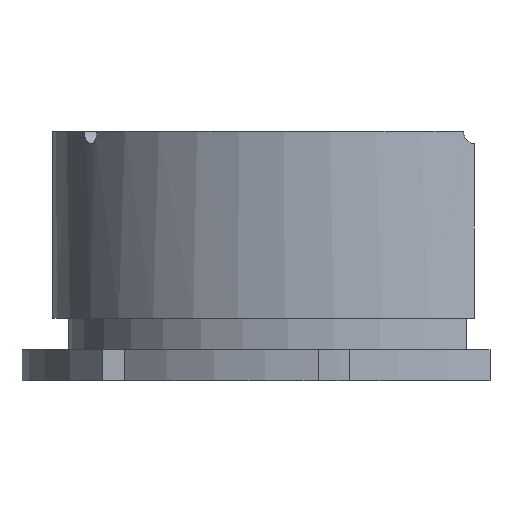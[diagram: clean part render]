
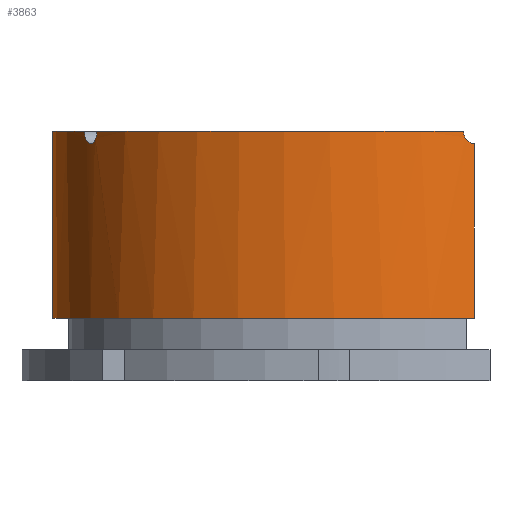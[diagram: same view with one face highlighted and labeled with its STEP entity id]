
A CAD part, front view. The second image highlights one B-rep face of the part: STEP entity #3863.
In plain terms, the highlighted cylindrical face has radius 45 mm (diameter 90 mm), a partial arc.
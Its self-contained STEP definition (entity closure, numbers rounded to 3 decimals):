
#203=B_SPLINE_CURVE_WITH_KNOTS('',3,(#6580,#6581,#6582,#6583,#6584),
 .UNSPECIFIED.,.F.,.F.,(4,1,4),(0.,0.002,
0.003),.UNSPECIFIED.);
#204=B_SPLINE_CURVE_WITH_KNOTS('',3,(#6588,#6589,#6590,#6591,#6592,#6593,
#6594),.UNSPECIFIED.,.F.,.F.,(4,1,1,1,4),(0.,0.002,0.003,
0.005,0.006),.UNSPECIFIED.);
#205=B_SPLINE_CURVE_WITH_KNOTS('',3,(#6598,#6599,#6600,#6601,#6602,#6603,
#6604),.UNSPECIFIED.,.F.,.F.,(4,1,1,1,4),(0.,0.002,0.003,
0.005,0.006),.UNSPECIFIED.);
#406=CIRCLE('',#4046,45.);
#407=CIRCLE('',#4047,45.);
#408=CIRCLE('',#4048,45.);
#409=CIRCLE('',#4049,45.);
#589=ORIENTED_EDGE('',*,*,#1471,.F.);
#590=ORIENTED_EDGE('',*,*,#1472,.T.);
#591=ORIENTED_EDGE('',*,*,#1473,.F.);
#592=ORIENTED_EDGE('',*,*,#1474,.T.);
#593=ORIENTED_EDGE('',*,*,#1475,.F.);
#594=ORIENTED_EDGE('',*,*,#1476,.T.);
#595=ORIENTED_EDGE('',*,*,#1477,.F.);
#596=ORIENTED_EDGE('',*,*,#1478,.F.);
#597=ORIENTED_EDGE('',*,*,#1479,.T.);
#1471=EDGE_CURVE('',#1909,#1910,#2129,.T.);
#1472=EDGE_CURVE('',#1909,#1911,#203,.T.);
#1473=EDGE_CURVE('',#1912,#1911,#406,.T.);
#1474=EDGE_CURVE('',#1912,#1913,#204,.T.);
#1475=EDGE_CURVE('',#1914,#1913,#407,.T.);
#1476=EDGE_CURVE('',#1914,#1915,#205,.T.);
#1477=EDGE_CURVE('',#1916,#1915,#408,.T.);
#1478=EDGE_CURVE('',#1917,#1916,#2130,.F.);
#1479=EDGE_CURVE('',#1917,#1910,#409,.T.);
#1909=VERTEX_POINT('',#6578);
#1910=VERTEX_POINT('',#6579);
#1911=VERTEX_POINT('',#6585);
#1912=VERTEX_POINT('',#6587);
#1913=VERTEX_POINT('',#6595);
#1914=VERTEX_POINT('',#6597);
#1915=VERTEX_POINT('',#6605);
#1916=VERTEX_POINT('',#6607);
#1917=VERTEX_POINT('',#6609);
#2129=LINE('',#6577,#2304);
#2130=LINE('',#6608,#2305);
#2304=VECTOR('',#4342,1000.);
#2305=VECTOR('',#4349,1000.);
#2428=EDGE_LOOP('',(#589,#590,#591,#592,#593,#594,#595,#596,#597));
#2579=FACE_BOUND('',#2428,.T.);
#2728=CYLINDRICAL_SURFACE('',#4045,45.);
#3863=ADVANCED_FACE('',(#2579),#2728,.T.);
#4045=AXIS2_PLACEMENT_3D('',#6576,#4340,#4341);
#4046=AXIS2_PLACEMENT_3D('',#6586,#4343,#4344);
#4047=AXIS2_PLACEMENT_3D('',#6596,#4345,#4346);
#4048=AXIS2_PLACEMENT_3D('',#6606,#4347,#4348);
#4049=AXIS2_PLACEMENT_3D('',#6610,#4350,#4351);
#4340=DIRECTION('',(0.,0.,-1.));
#4341=DIRECTION('',(-1.,0.,0.));
#4342=DIRECTION('',(0.,0.,-1.));
#4343=DIRECTION('',(0.,0.,1.));
#4344=DIRECTION('',(-0.707,0.707,0.));
#4345=DIRECTION('',(0.,0.,1.));
#4346=DIRECTION('',(-0.707,0.707,0.));
#4347=DIRECTION('',(0.,0.,1.));
#4348=DIRECTION('',(-0.707,0.707,0.));
#4349=DIRECTION('',(0.,0.,-1.));
#4350=DIRECTION('',(0.,0.,1.));
#4351=DIRECTION('',(-0.707,0.707,0.));
#6576=CARTESIAN_POINT('',(0.,0.,40.));
#6577=CARTESIAN_POINT('',(22.5,-38.971,40.));
#6578=CARTESIAN_POINT('',(22.5,-38.971,38.));
#6579=CARTESIAN_POINT('',(22.5,-38.971,10.));
#6580=CARTESIAN_POINT('',(22.5,-38.971,38.));
#6581=CARTESIAN_POINT('',(22.042,-39.235,38.));
#6582=CARTESIAN_POINT('',(21.135,-39.734,38.435));
#6583=CARTESIAN_POINT('',(20.746,-39.933,39.472));
#6584=CARTESIAN_POINT('',(20.746,-39.933,40.));
#6585=CARTESIAN_POINT('',(20.746,-39.933,40.));
#6586=CARTESIAN_POINT('',(0.,0.,40.));
#6587=CARTESIAN_POINT('',(-37.933,-24.21,40.));
#6588=CARTESIAN_POINT('',(-37.933,-24.21,40.));
#6589=CARTESIAN_POINT('',(-37.933,-24.21,39.472));
#6590=CARTESIAN_POINT('',(-38.168,-23.847,38.437));
#6591=CARTESIAN_POINT('',(-38.981,-22.505,37.782));
#6592=CARTESIAN_POINT('',(-39.735,-21.133,38.435));
#6593=CARTESIAN_POINT('',(-39.933,-20.746,39.472));
#6594=CARTESIAN_POINT('',(-39.933,-20.746,40.));
#6595=CARTESIAN_POINT('',(-39.933,-20.746,40.));
#6596=CARTESIAN_POINT('',(0.,0.,40.));
#6597=CARTESIAN_POINT('',(-24.21,37.933,40.));
#6598=CARTESIAN_POINT('',(-24.21,37.933,40.));
#6599=CARTESIAN_POINT('',(-24.21,37.933,39.472));
#6600=CARTESIAN_POINT('',(-23.847,38.168,38.437));
#6601=CARTESIAN_POINT('',(-22.505,38.981,37.782));
#6602=CARTESIAN_POINT('',(-21.133,39.735,38.435));
#6603=CARTESIAN_POINT('',(-20.746,39.933,39.472));
#6604=CARTESIAN_POINT('',(-20.746,39.933,40.));
#6605=CARTESIAN_POINT('',(-20.746,39.933,40.));
#6606=CARTESIAN_POINT('',(0.,0.,40.));
#6607=CARTESIAN_POINT('',(0.,45.,40.));
#6608=CARTESIAN_POINT('',(0.,45.,40.));
#6609=CARTESIAN_POINT('',(0.,45.,10.));
#6610=CARTESIAN_POINT('',(0.,0.,10.));
